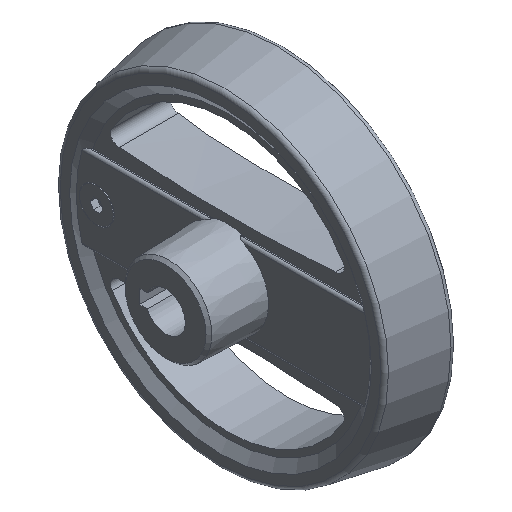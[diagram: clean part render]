
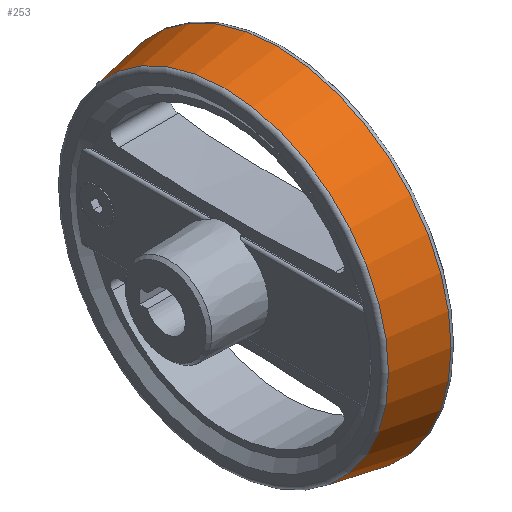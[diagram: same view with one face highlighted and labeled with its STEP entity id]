
A CAD part, isometric view. The second image highlights one B-rep face of the part: STEP entity #253.
In plain terms, the highlighted conical face has half-angle 10.006 degrees and reference radius 59.107 mm.
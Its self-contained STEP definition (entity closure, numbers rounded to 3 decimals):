
#253 = ADVANCED_FACE( '', ( #475, #476 ), #477, .T. );
#475 = FACE_OUTER_BOUND( '', #733, .T. );
#476 = FACE_BOUND( '', #734, .T. );
#477 = CONICAL_SURFACE( '', #735, 59.107, 0.175 );
#733 = EDGE_LOOP( '', ( #1437 ) );
#734 = EDGE_LOOP( '', ( #1438 ) );
#735 = AXIS2_PLACEMENT_3D( '', #1439, #1440, #1441 );
#1437 = ORIENTED_EDGE( '', *, *, #1748, .F. );
#1438 = ORIENTED_EDGE( '', *, *, #1747, .T. );
#1439 = CARTESIAN_POINT( '', ( 20.939, 0., 0. ) );
#1440 = DIRECTION( '', ( 1., 0., 0. ) );
#1441 = DIRECTION( '', ( 0., 0., -1. ) );
#1747 = EDGE_CURVE( '', #2111, #2111, #2112, .T. );
#1748 = EDGE_CURVE( '', #2113, #2113, #2114, .T. );
#2111 = VERTEX_POINT( '', #3031 );
#2112 = CIRCLE( '', #3032, 59.107 );
#2113 = VERTEX_POINT( '', #3033 );
#2114 = CIRCLE( '', #3034, 62.477 );
#3031 = CARTESIAN_POINT( '', ( 20.939, 0., -59.107 ) );
#3032 = AXIS2_PLACEMENT_3D( '', #3379, #3380, #3381 );
#3033 = CARTESIAN_POINT( '', ( 40.039, 0., -62.477 ) );
#3034 = AXIS2_PLACEMENT_3D( '', #3382, #3383, #3384 );
#3379 = CARTESIAN_POINT( '', ( 20.939, 0., 0. ) );
#3380 = DIRECTION( '', ( 1., 0., 0. ) );
#3381 = DIRECTION( '', ( 0., 0., -1. ) );
#3382 = CARTESIAN_POINT( '', ( 40.039, 0., 0. ) );
#3383 = DIRECTION( '', ( 1., 0., 0. ) );
#3384 = DIRECTION( '', ( 0., 0., -1. ) );
